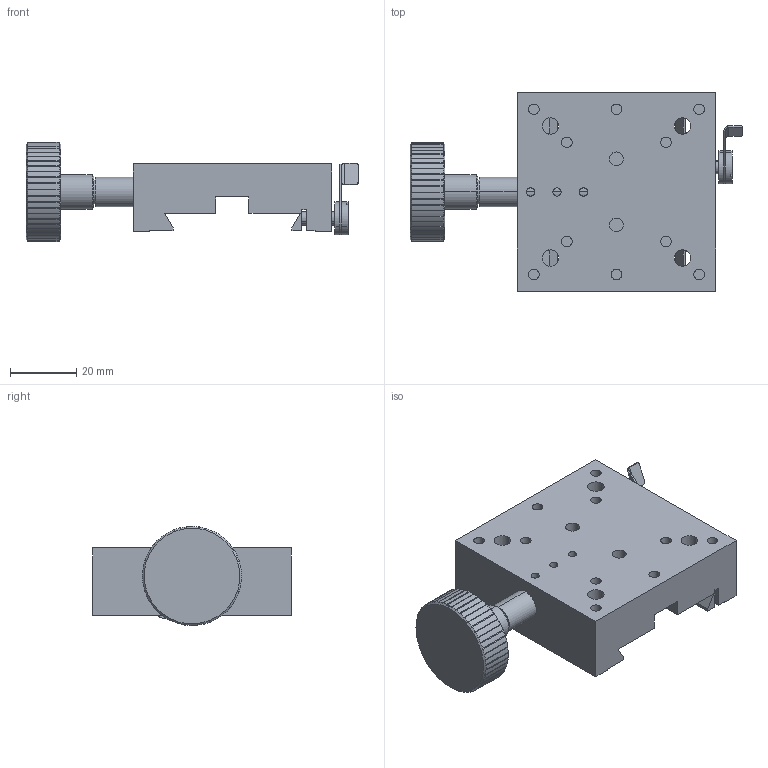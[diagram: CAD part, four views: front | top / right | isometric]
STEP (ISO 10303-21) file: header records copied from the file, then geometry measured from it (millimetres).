
FILE_DESCRIPTION (( 'STEP AP214' ), '1' );
FILE_NAME ('LWX60 »¬¿é.STEP', '2019-12-17T08:53:05', ( 'HP Z420' ), ( '' ), 'SwSTEP 2.0', 'SolidWorks 2016', '' );
FILE_SCHEMA (( 'AUTOMOTIVE_DESIGN' ));
Length unit declared in the file: millimetre
Products named in the file (5): LWX60 賑輸; LWX40.0.1; LWX40.0.3; LWX40.0.4
Assembly tree (4 placements, depth 2):
  LWX60 賑輸
    LWX60 賑輸
    LWX40.0.1
    LWX40.0.3
    LWX40.0.4
Bounding box: 100.5 x 60 x 30 mm (x, y, z)
Volume: 64326.8 mm3; surface area: 21064.5 mm2
Topology: 4 solids, 4 shells, 280 faces, 782 edges, 515 vertices
Faces by surface type: cylinder 196, plane 77, cone 6, bspline 1
Entity records: 10157 total; most frequent: CARTESIAN_POINT 2793, ORIENTED_EDGE 1564, DIRECTION 1447, EDGE_CURVE 782, AXIS2_PLACEMENT_3D 549, VERTEX_POINT 515, VECTOR 349, LINE 349
